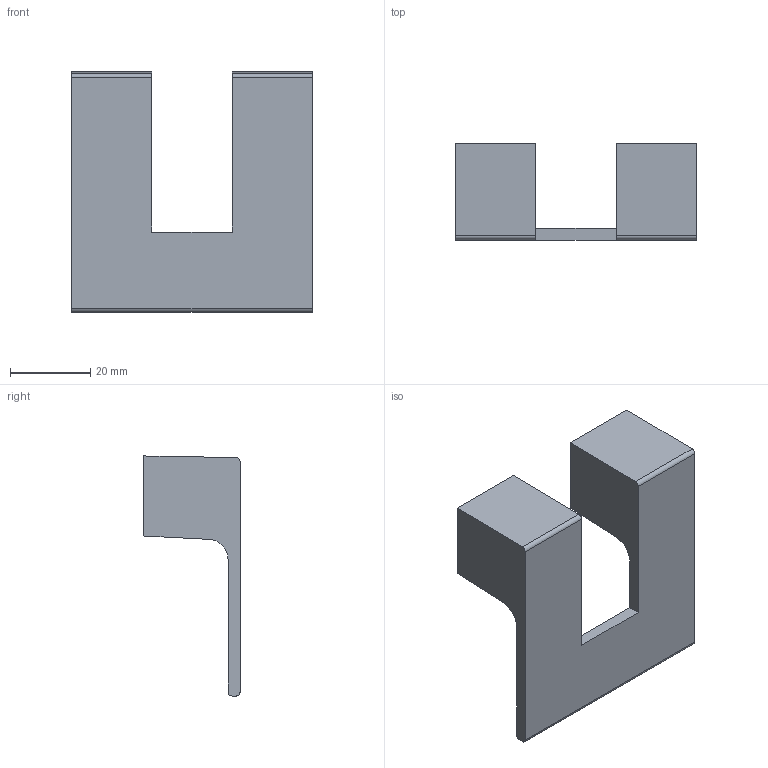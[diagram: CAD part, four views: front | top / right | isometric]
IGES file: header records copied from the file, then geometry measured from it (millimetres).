
Start section: Data from Parasolid IGES Translator 15.0.47, Copyright(c) 2006 Siemens P LM Software. All Rights Reserved.
Global section: file name: 9065628.igs; native system:  By UGS Corp.; preprocessor: XPlus GENERIC/IGES 3.0; author: Noname; organization: Noname; date: 20140123.103128; units: millimetre
Bounding box: 60 x 24 x 60 mm (x, y, z)
Surface area: 9961.1 mm2 (no closed solid volume)
Topology: 0 solids, 0 shells, 24 faces, 120 edges, 118 vertices
Faces by surface type: extrusion 16, revolution 8
